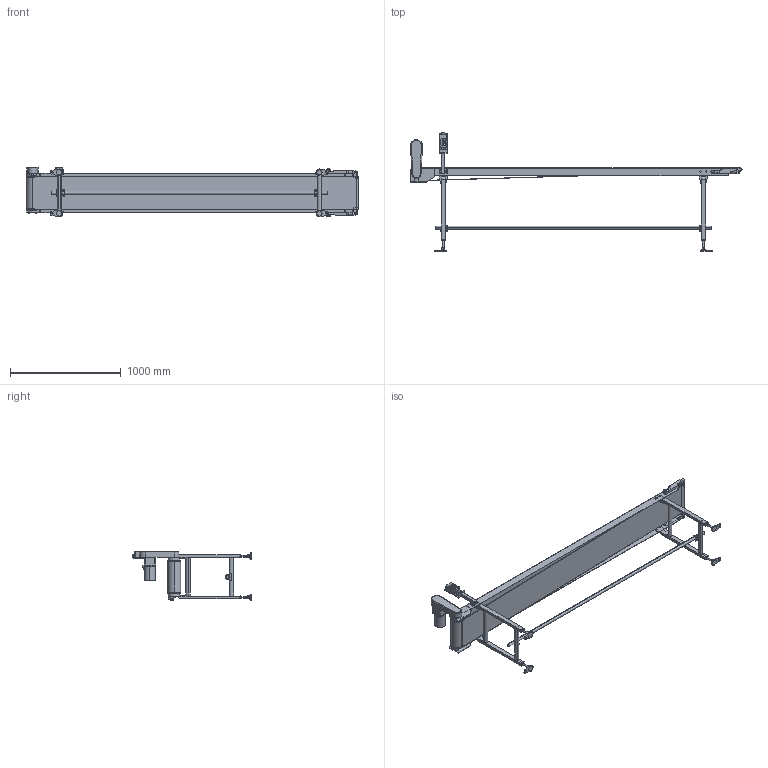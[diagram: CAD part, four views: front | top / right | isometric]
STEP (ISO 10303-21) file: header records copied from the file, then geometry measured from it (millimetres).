
FILE_DESCRIPTION( (''), '2;1');
FILE_NAME ('FB23-OD-309-300-300-L-K-100.stp','2025-02-17T10:04:16',(''),(''),'spGate 20.6.2 (****-****-****-****)','','');
FILE_SCHEMA (('AUTOMOTIVE_DESIGN'));
Length unit declared in the file: millimetre
Products named in the file (43): NewModel; FB23-OD-300-3000-L; TEMP_X_T-prt0; TEMP_X_T-prt1; TEMP_X_T-prt2; TEMP_X_T-prt3; TEMP_X_T-prt4; TEMP_X_T-prt5; TEMP_X_T-prt6; TEMP_X_T-prt7; TEMP_X_T-prt8; TEMP_X_T-prt9; TEMP_X_T-prt10; TEMP_X_T-prt11; TEMP_X_T-prt12; TEMP_X_T-prt13; TEMP_X_T-prt14; TEMP_X_T-prt15; TEMP_X_T-prt16; TEMP_X_T-prt17; TEMP_X_T-prt18; TEMP_X_T-prt19; TEMP_X_T-prt20; TEMP_X_T-prt21; TEMP_X_T-prt22; TEMP_X_T-prt23; TEMP_X_T-prt24; TEMP_X_T-prt25; TEMP_X_T-prt26; TEMP_X_T-prt27; TEMP_X_T-prt28; TEMP_X_T-prt29; TEMP_X_T-prt30; TEMP_X_T-prt31; TEMP_X_T-prt32; TEMP_X_T-prt33; TEMP_X_T-prt34; TEMP_X_T-prt35; TEMP_X_T-prt36; TEMP_X_T-prt37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
Assembly tree (42 placements, depth 3):
  NewModel
    FB23-OD-300-3000-L
      TEMP_X_T-prt0
      TEMP_X_T-prt1
      TEMP_X_T-prt2
      TEMP_X_T-prt3
      TEMP_X_T-prt4
      TEMP_X_T-prt5
      TEMP_X_T-prt6
      TEMP_X_T-prt7
      TEMP_X_T-prt8
      TEMP_X_T-prt9
      TEMP_X_T-prt10
      TEMP_X_T-prt11
      TEMP_X_T-prt12
      TEMP_X_T-prt13
      TEMP_X_T-prt14
      TEMP_X_T-prt15
      TEMP_X_T-prt16
      TEMP_X_T-prt17
      TEMP_X_T-prt18
      TEMP_X_T-prt19
      TEMP_X_T-prt20
      TEMP_X_T-prt21
      TEMP_X_T-prt22
      TEMP_X_T-prt23
      TEMP_X_T-prt24
      TEMP_X_T-prt25
      TEMP_X_T-prt26
      TEMP_X_T-prt27
      TEMP_X_T-prt28
      TEMP_X_T-prt29
      TEMP_X_T-prt30
      TEMP_X_T-prt31
      TEMP_X_T-prt32
      TEMP_X_T-prt33
      TEMP_X_T-prt34
      TEMP_X_T-prt35
      TEMP_X_T-prt36
      TEMP_X_T-prt37
      TEMP_X_T-prt38
      TEMP_X_T-prt39
      TEMP_X_T-prt40
Bounding box: 2999.71 x 1069.5 x 450.7 mm (x, y, z)
Volume: 18631077.7 mm3; surface area: 8030730.5 mm2
Topology: 41 solids, 41 shells, 1181 faces, 2906 edges, 1894 vertices
Faces by surface type: plane 781, cylinder 344, bspline 50, sphere 6
Entity records: 60847 total; most frequent: CARTESIAN_POINT 8239, DIRECTION 5783, ORIENTED_EDGE 5760, COLOUR_RGB 4102, PRESENTATION_STYLE_ASSIGNMENT 4102, STYLED_ITEM 4102, EDGE_CURVE 2880, DRAUGHTING_PRE_DEFINED_CURVE_FONT 2880
